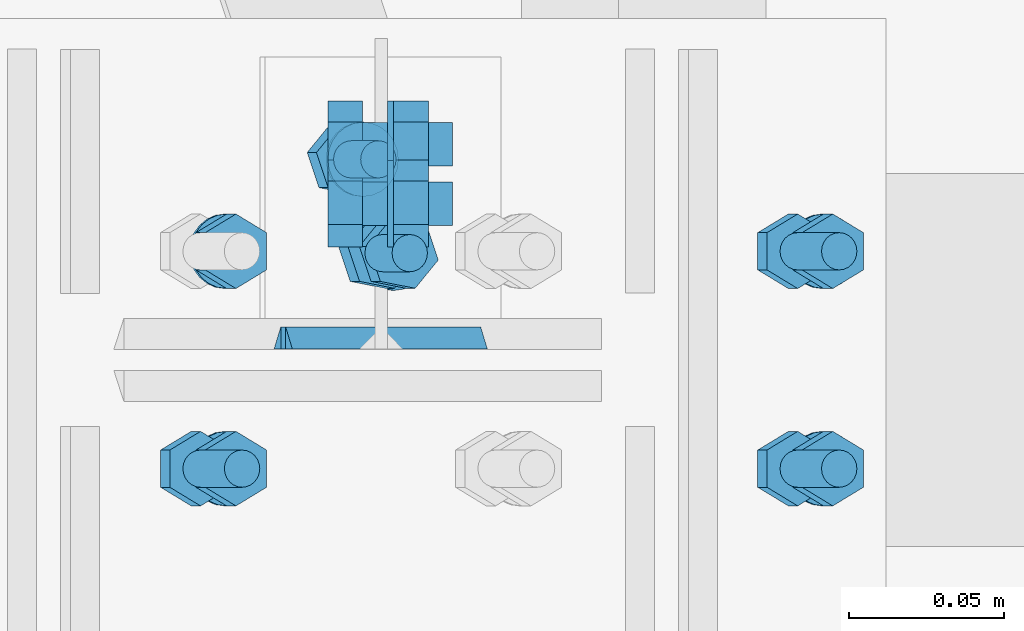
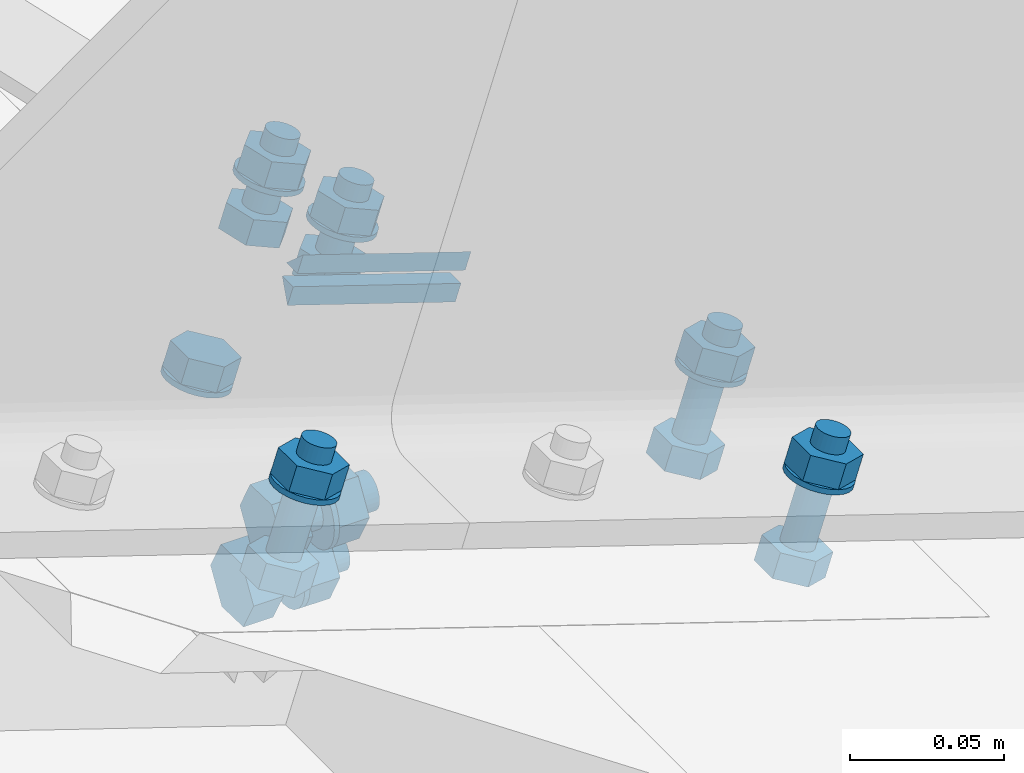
# One storey, part 48 of 53: 30 mechanical fasteners, 2 fasteners.
"""IFC4 building model written with IfcOpenShell, lengths in metres."""

from ifc_helpers import new_model, si_unit, frame, origin_with_axes, place, context, project, spatial, polyline, outline, extrude, type_object, element, save


model = new_model("IFC4")

# Units and contexts
model_context = context("Model", 3, precision=1e-05, world=origin_with_axes())
ifc_project = project(units=[si_unit("LENGTHUNIT", "METRE"), si_unit("AREAUNIT", "SQUARE_METRE"), si_unit("VOLUMEUNIT", "CUBIC_METRE"), si_unit("MASSUNIT", "GRAM", prefix="KILO"), si_unit("TIMEUNIT", "SECOND"), si_unit("PLANEANGLEUNIT", "RADIAN"), si_unit("SOLIDANGLEUNIT", "STERADIAN"), si_unit("THERMODYNAMICTEMPERATUREUNIT", "DEGREE_CELSIUS")], contexts=[model_context])

# Site, building, storey
placement_1 = place(None, origin_with_axes())
site = spatial("IfcSite", under=ifc_project, at=placement_1, Name="Italia", CompositionType="ELEMENT")
building = spatial("IfcBuilding", under=site, at=placement_1, Name="Capannone", CompositionType="ELEMENT")
storey_placement = place(None, frame((0.0, 0.0, 5.550000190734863), z_axis=(0.0, 0.0, 1.0), x_axis=(1.0, 0.0, 0.0)))
storey = spatial("IfcBuildingStorey", under=building, at=storey_placement, Name="Storey 1", CompositionType="ELEMENT", Elevation=5.550000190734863)

# Mechanical fasteners
mechanical_fastener_type_1 = type_object("IfcMechanicalFastenerType", Name="Collegamenti 0102_0002 0104_0004 0106_0006 0108_0008 0110_0010 0112_0012", PredefinedType="BOLT")
placement_2 = place(placement_1, origin_with_axes())
mechanical_fastener_1_placement = place(placement_2, origin_with_axes())
element("IfcMechanicalFastener", 1, at=mechanical_fastener_1_placement, inside=storey, type_object=mechanical_fastener_type_1, Name="Collegamenti 0102_0002 0104_0004 0106_0006 0108_0008 0110_0010 0112_0012", NominalDiameter=0.0119993, context=model_context, shape_type="SweptSolid", body=[
    extrude(outline(polyline([(0.0, 0.0), (-0.0120001, 0.0), (-0.0179996, 0.0103922), (-0.0120001, 0.0207844), (0.0, 0.0207844), (0.00600052, 0.0103922), (0.0, 0.0)])), frame((13.9691, 12.029, 5.5827), z_axis=(-0.312127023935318, 0.0, -0.950040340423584), x_axis=(0.0, -1.0, 0.0)), (0.0, 0.0, 1.0), 0.00960008),
])
mechanical_fastener_type_2 = type_object("IfcMechanicalFastenerType", Name="Collegamenti 0102_0002 0104_0004 0106_0006 0108_0008 0110_0010 0112_0012", PredefinedType="BOLT")
mechanical_fastener_2_placement = place(placement_2, origin_with_axes())
element("IfcMechanicalFastener", 2, at=mechanical_fastener_2_placement, inside=storey, type_object=mechanical_fastener_type_2, Name="Collegamenti 0102_0002 0104_0004 0106_0006 0108_0008 0110_0010 0112_0012", NominalDiameter=0.024, context=model_context, shape_type="SweptSolid", body=[
    extrude(outline(polyline([(0.0, 0.0), (-0.000409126, -0.00310516), (-0.00160789, -0.00600052), (-0.00351524, -0.00848484), (-0.00600052, -0.0103931), (-0.00889397, -0.011591), (-0.0120001, -0.0120001), (-0.0151062, -0.011591), (-0.0179996, -0.0103931), (-0.0204849, -0.00848484), (-0.0223923, -0.00600052), (-0.023591, -0.00310516), (-0.0240002, 0.0), (-0.023591, 0.00310516), (-0.0223923, 0.00599957), (-0.0204849, 0.00848579), (-0.0179996, 0.0103922), (-0.0151062, 0.011591), (-0.0120001, 0.0120001), (-0.00889397, 0.011591), (-0.00600052, 0.0103922), (-0.00351524, 0.00848579), (-0.00160789, 0.00599957), (-0.000409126, 0.00310516), (0.0, 0.0)])), frame((13.9562, 12.023, 5.57682), z_axis=(-0.311790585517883, 0.0, -0.950150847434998), x_axis=(0.0, -1.0, 0.0)), (0.0, 0.0, 1.0), 0.00200039),
])
mechanical_fastener_type_3 = type_object("IfcMechanicalFastenerType", Name="Collegamenti 0102_0002 0104_0004 0106_0006 0108_0008 0110_0010 0112_0012", PredefinedType="BOLT")
mechanical_fastener_3_placement = place(placement_2, origin_with_axes())
element("IfcMechanicalFastener", 3, at=mechanical_fastener_3_placement, inside=storey, type_object=mechanical_fastener_type_3, Name="Collegamenti 0102_0002 0104_0004 0106_0006 0108_0008 0110_0010 0112_0012", NominalDiameter=0.0119994, context=model_context, shape_type="SweptSolid", body=[
    extrude(outline(polyline([(0.0, 0.0), (-0.0120001, 0.0), (-0.0180006, 0.0103931), (-0.0120001, 0.0207853), (0.0, 0.0207853), (0.00599957, 0.0103931), (0.0, 0.0)])), frame((13.9577, 11.959, 5.54811), z_axis=(-0.312141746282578, 0.0, -0.950035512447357), x_axis=(0.0, -1.0, 0.0)), (0.0, 0.0, 1.0), 0.00959963),
])
mechanical_fastener_type_4 = type_object("IfcMechanicalFastenerType", Name="Collegamenti 0102_0002 0104_0004 0106_0006 0108_0008 0110_0010 0112_0012", PredefinedType="BOLT")
mechanical_fastener_4_placement = place(placement_2, origin_with_axes())
element("IfcMechanicalFastener", 4, at=mechanical_fastener_4_placement, inside=storey, type_object=mechanical_fastener_type_4, Name="Collegamenti 0102_0002 0104_0004 0106_0006 0108_0008 0110_0010 0112_0012", NominalDiameter=0.012, context=model_context, shape_type="SweptSolid", body=[
    extrude(outline(polyline([(0.0, 0.0), (-0.000204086, -0.00155354), (-0.000802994, -0.00300121), (-0.00175667, -0.00424194), (-0.00299931, -0.00519562), (-0.00444698, -0.00579453), (-0.00599957, -0.00599957), (-0.00755215, -0.00579453), (-0.00899982, -0.00519562), (-0.0102425, -0.00424194), (-0.0111961, -0.00300121), (-0.011795, -0.00155354), (-0.0119991, 0.0), (-0.011795, 0.00155354), (-0.0111961, 0.00300026), (-0.0102425, 0.00424194), (-0.00899982, 0.00519657), (-0.00755215, 0.00579548), (-0.00599957, 0.00599957), (-0.00444698, 0.00579548), (-0.00299931, 0.00519657), (-0.00175667, 0.00424194), (-0.000802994, 0.00300026), (-0.000204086, 0.00155354), (0.0, 0.0)])), frame((13.9612, 11.959, 5.59202), z_axis=(-0.312147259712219, 0.0, -0.950033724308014), x_axis=(0.0, -1.0, 0.0)), (0.0, 0.0, 1.0), 0.0428004),
])
mechanical_fastener_type_5 = type_object("IfcMechanicalFastenerType", Name="Collegamenti 0102_0002 0104_0004 0106_0006 0108_0008 0110_0010 0112_0012", PredefinedType="BOLT")
mechanical_fastener_5_placement = place(placement_2, origin_with_axes())
element("IfcMechanicalFastener", 5, at=mechanical_fastener_5_placement, inside=storey, type_object=mechanical_fastener_type_5, Name="Collegamenti 0102_0002 0104_0004 0106_0006 0108_0008 0110_0010 0112_0012", NominalDiameter=0.0119993, context=model_context, shape_type="SweptSolid", body=[
    extrude(outline(polyline([(0.0, 0.0), (-0.0120001, 0.0), (-0.0180006, 0.0103922), (-0.0120001, 0.0207844), (0.0, 0.0207844), (0.00599957, 0.0103922), (0.0, 0.0)])), frame((13.9691, 11.959, 5.5827), z_axis=(-0.312127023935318, 0.0, -0.950040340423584), x_axis=(0.0, -1.0, 0.0)), (0.0, 0.0, 1.0), 0.00960008),
])
mechanical_fastener_type_6 = type_object("IfcMechanicalFastenerType", Name="Collegamenti 0102_0002 0104_0004 0106_0006 0108_0008 0110_0010 0112_0012", PredefinedType="BOLT")
mechanical_fastener_6_placement = place(placement_2, origin_with_axes())
element("IfcMechanicalFastener", 6, at=mechanical_fastener_6_placement, inside=storey, type_object=mechanical_fastener_type_6, Name="Collegamenti 0102_0002 0104_0004 0106_0006 0108_0008 0110_0010 0112_0012", NominalDiameter=0.024, context=model_context, shape_type="SweptSolid", body=[
    extrude(outline(polyline([(0.0, 0.0), (-0.000409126, -0.00310516), (-0.00160789, -0.00600052), (-0.00351524, -0.00848484), (-0.00600052, -0.0103931), (-0.00889397, -0.011591), (-0.0120001, -0.0120001), (-0.0151062, -0.011591), (-0.0179996, -0.0103931), (-0.0204849, -0.00848484), (-0.0223923, -0.00600052), (-0.023591, -0.00310516), (-0.0240002, 0.0), (-0.023591, 0.00310516), (-0.0223923, 0.00599957), (-0.0204849, 0.00848579), (-0.0179996, 0.0103922), (-0.0151062, 0.011591), (-0.0120001, 0.0120001), (-0.00889397, 0.011591), (-0.00600052, 0.0103922), (-0.00351524, 0.00848579), (-0.00160789, 0.00599957), (-0.000409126, 0.00310516), (0.0, 0.0)])), frame((13.9562, 11.953, 5.57682), z_axis=(-0.311790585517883, 0.0, -0.950150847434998), x_axis=(0.0, -1.0, 0.0)), (0.0, 0.0, 1.0), 0.00200039),
])
mechanical_fastener_type_7 = type_object("IfcMechanicalFastenerType", Name="Collegamenti 0102_0002 0104_0004 0106_0006 0108_0008 0110_0010 0112_0012", PredefinedType="BOLT")
mechanical_fastener_7_placement = place(placement_2, origin_with_axes())
element("IfcMechanicalFastener", 7, at=mechanical_fastener_7_placement, inside=storey, type_object=mechanical_fastener_type_7, Name="Collegamenti 0102_0002 0104_0004 0106_0006 0108_0008 0110_0010 0112_0012", NominalDiameter=0.0120001, context=model_context, shape_type="SweptSolid", body=[
    extrude(outline(polyline([(0.0, 0.0), (-0.0120001, 0.0), (-0.0179996, 0.0103922), (-0.0120001, 0.0207853), (0.0, 0.0207853), (0.00600052, 0.0103922), (0.0, 0.0)])), frame((14.15, 12.029, 5.48493), z_axis=(-0.312216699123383, 0.0, -0.950010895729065), x_axis=(0.0, -1.0, 0.0)), (0.0, 0.0, 1.0), 0.00960038),
])
mechanical_fastener_type_8 = type_object("IfcMechanicalFastenerType", Name="Collegamenti 0102_0002 0104_0004 0106_0006 0108_0008 0110_0010 0112_0012", PredefinedType="BOLT")
mechanical_fastener_8_placement = place(placement_2, origin_with_axes())
element("IfcMechanicalFastener", 8, at=mechanical_fastener_8_placement, inside=storey, type_object=mechanical_fastener_type_8, Name="Collegamenti 0102_0002 0104_0004 0106_0006 0108_0008 0110_0010 0112_0012", NominalDiameter=0.012, context=model_context, shape_type="SweptSolid", body=[
    extrude(outline(polyline([(0.0, 0.0), (-0.000204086, -0.00155163), (-0.000802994, -0.00299931), (-0.00175667, -0.00424099), (-0.00299931, -0.00519562), (-0.00444698, -0.00579453), (-0.00599957, -0.00599957), (-0.00755215, -0.00579453), (-0.00899982, -0.00519562), (-0.0102425, -0.00424099), (-0.0111961, -0.00299931), (-0.011795, -0.00155163), (-0.0119991, 0.0), (-0.011795, 0.00155354), (-0.0111961, 0.00300121), (-0.0102425, 0.0042429), (-0.00899982, 0.00519657), (-0.00755215, 0.00579548), (-0.00599957, 0.00600052), (-0.00444698, 0.00579548), (-0.00299931, 0.00519657), (-0.00175667, 0.0042429), (-0.000802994, 0.00300121), (-0.000204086, 0.00155354), (0.0, 0.0)])), frame((14.1535, 12.029, 5.52884), z_axis=(-0.312150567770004, 0.0, -0.950032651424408), x_axis=(0.0, -1.0, 0.0)), (0.0, 0.0, 1.0), 0.0427999),
])
mechanical_fastener_type_9 = type_object("IfcMechanicalFastenerType", Name="Collegamenti 0102_0002 0104_0004 0106_0006 0108_0008 0110_0010 0112_0012", PredefinedType="BOLT")
mechanical_fastener_9_placement = place(placement_2, origin_with_axes())
element("IfcMechanicalFastener", 9, at=mechanical_fastener_9_placement, inside=storey, type_object=mechanical_fastener_type_9, Name="Collegamenti 0102_0002 0104_0004 0106_0006 0108_0008 0110_0010 0112_0012", NominalDiameter=0.0119993, context=model_context, shape_type="SweptSolid", body=[
    extrude(outline(polyline([(0.0, 0.0), (-0.0120001, 0.0), (-0.0179996, 0.0103931), (-0.0120001, 0.0207853), (0.0, 0.0207853), (0.00600052, 0.0103931), (0.0, 0.0)])), frame((14.1613, 12.029, 5.51952), z_axis=(-0.312127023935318, 0.0, -0.950040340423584), x_axis=(0.0, -1.0, 0.0)), (0.0, 0.0, 1.0), 0.00960008),
])
mechanical_fastener_type_10 = type_object("IfcMechanicalFastenerType", Name="Collegamenti 0102_0002 0104_0004 0106_0006 0108_0008 0110_0010 0112_0012", PredefinedType="BOLT")
mechanical_fastener_10_placement = place(placement_2, origin_with_axes())
element("IfcMechanicalFastener", 10, at=mechanical_fastener_10_placement, inside=storey, type_object=mechanical_fastener_type_10, Name="Collegamenti 0102_0002 0104_0004 0106_0006 0108_0008 0110_0010 0112_0012", NominalDiameter=0.024, context=model_context, shape_type="SweptSolid", body=[
    extrude(outline(polyline([(0.0, 0.0), (-0.000409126, -0.00310612), (-0.00160789, -0.00600052), (-0.00351524, -0.00848484), (-0.00600052, -0.0103922), (-0.00889397, -0.011591), (-0.0120001, -0.0120001), (-0.0151062, -0.011591), (-0.0179996, -0.0103922), (-0.0204849, -0.00848484), (-0.0223923, -0.00600052), (-0.023591, -0.00310612), (-0.0240002, 0.0), (-0.023591, 0.00310612), (-0.0223923, 0.00599957), (-0.0204849, 0.00848579), (-0.0179996, 0.0103922), (-0.0151062, 0.0115919), (-0.0120001, 0.0120001), (-0.00889397, 0.0115919), (-0.00600052, 0.0103922), (-0.00351524, 0.00848579), (-0.00160789, 0.00599957), (-0.000409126, 0.00310612), (0.0, 0.0)])), frame((14.1485, 12.023, 5.51364), z_axis=(-0.311790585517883, 0.0, -0.950150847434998), x_axis=(0.0, -1.0, 0.0)), (0.0, 0.0, 1.0), 0.00200039),
])
mechanical_fastener_type_11 = type_object("IfcMechanicalFastenerType", Name="Collegamenti 0102_0002 0104_0004 0106_0006 0108_0008 0110_0010 0112_0012", PredefinedType="BOLT")
mechanical_fastener_11_placement = place(placement_2, origin_with_axes())
element("IfcMechanicalFastener", 11, at=mechanical_fastener_11_placement, inside=storey, type_object=mechanical_fastener_type_11, Name="Collegamenti 0102_0002 0104_0004 0106_0006 0108_0008 0110_0010 0112_0012", NominalDiameter=0.0120001, context=model_context, shape_type="SweptSolid", body=[
    extrude(outline(polyline([(0.0, 0.0), (-0.0120001, 0.0), (-0.0180006, 0.0103922), (-0.0120001, 0.0207853), (0.0, 0.0207853), (0.00599957, 0.0103922), (0.0, 0.0)])), frame((14.15, 11.959, 5.48493), z_axis=(-0.312216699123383, 0.0, -0.950010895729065), x_axis=(0.0, -1.0, 0.0)), (0.0, 0.0, 1.0), 0.00960038),
])
mechanical_fastener_type_12 = type_object("IfcMechanicalFastenerType", Name="Collegamenti 0102_0002 0104_0004 0106_0006 0108_0008 0110_0010 0112_0012", PredefinedType="BOLT")
mechanical_fastener_12_placement = place(placement_2, origin_with_axes())
element("IfcMechanicalFastener", 12, at=mechanical_fastener_12_placement, inside=storey, type_object=mechanical_fastener_type_12, Name="Collegamenti 0102_0002 0104_0004 0106_0006 0108_0008 0110_0010 0112_0012", NominalDiameter=0.012, context=model_context, shape_type="SweptSolid", body=[
    extrude(outline(polyline([(0.0, 0.0), (-0.000204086, -0.00155163), (-0.000802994, -0.00299931), (-0.00175667, -0.00424099), (-0.00299931, -0.00519562), (-0.00444698, -0.00579453), (-0.00599957, -0.00599957), (-0.00755215, -0.00579453), (-0.00899982, -0.00519562), (-0.0102425, -0.00424099), (-0.0111961, -0.00299931), (-0.011795, -0.00155163), (-0.0119991, 0.0), (-0.011795, 0.00155354), (-0.0111961, 0.00300121), (-0.0102425, 0.0042429), (-0.00899982, 0.00519657), (-0.00755215, 0.00579548), (-0.00599957, 0.00600052), (-0.00444698, 0.00579548), (-0.00299931, 0.00519657), (-0.00175667, 0.0042429), (-0.000802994, 0.00300121), (-0.000204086, 0.00155354), (0.0, 0.0)])), frame((14.1535, 11.959, 5.52884), z_axis=(-0.312150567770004, 0.0, -0.950032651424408), x_axis=(0.0, -1.0, 0.0)), (0.0, 0.0, 1.0), 0.0427999),
])
mechanical_fastener_type_13 = type_object("IfcMechanicalFastenerType", Name="Collegamenti 0102_0002 0104_0004 0106_0006 0108_0008 0110_0010 0112_0012", PredefinedType="BOLT")
mechanical_fastener_13_placement = place(placement_2, origin_with_axes())
element("IfcMechanicalFastener", 13, at=mechanical_fastener_13_placement, inside=storey, type_object=mechanical_fastener_type_13, Name="Collegamenti 0102_0002 0104_0004 0106_0006 0108_0008 0110_0010 0112_0012", NominalDiameter=0.0119993, context=model_context, shape_type="SweptSolid", body=[
    extrude(outline(polyline([(0.0, 0.0), (-0.0120001, 0.0), (-0.0180006, 0.0103931), (-0.0120001, 0.0207853), (0.0, 0.0207853), (0.00599957, 0.0103931), (0.0, 0.0)])), frame((14.1613, 11.959, 5.51952), z_axis=(-0.312127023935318, 0.0, -0.950040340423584), x_axis=(0.0, -1.0, 0.0)), (0.0, 0.0, 1.0), 0.00960008),
])
mechanical_fastener_type_14 = type_object("IfcMechanicalFastenerType", Name="Collegamenti 0102_0002 0104_0004 0106_0006 0108_0008 0110_0010 0112_0012", PredefinedType="BOLT")
mechanical_fastener_14_placement = place(placement_2, origin_with_axes())
element("IfcMechanicalFastener", 14, at=mechanical_fastener_14_placement, inside=storey, type_object=mechanical_fastener_type_14, Name="Collegamenti 0102_0002 0104_0004 0106_0006 0108_0008 0110_0010 0112_0012", NominalDiameter=0.024, context=model_context, shape_type="SweptSolid", body=[
    extrude(outline(polyline([(0.0, 0.0), (-0.000409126, -0.00310612), (-0.00160789, -0.00600052), (-0.00351524, -0.00848484), (-0.00600052, -0.0103922), (-0.00889397, -0.011591), (-0.0120001, -0.0120001), (-0.0151062, -0.011591), (-0.0179996, -0.0103922), (-0.0204849, -0.00848484), (-0.0223923, -0.00600052), (-0.023591, -0.00310612), (-0.0240002, 0.0), (-0.023591, 0.00310612), (-0.0223923, 0.00599957), (-0.0204849, 0.00848579), (-0.0179996, 0.0103922), (-0.0151062, 0.0115919), (-0.0120001, 0.0120001), (-0.00889397, 0.0115919), (-0.00600052, 0.0103922), (-0.00351524, 0.00848579), (-0.00160789, 0.00599957), (-0.000409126, 0.00310612), (0.0, 0.0)])), frame((14.1485, 11.953, 5.51364), z_axis=(-0.311790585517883, 0.0, -0.950150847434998), x_axis=(0.0, -1.0, 0.0)), (0.0, 0.0, 1.0), 0.00200039),
])
mechanical_fastener_type_15 = type_object("IfcMechanicalFastenerType", Name="Collegamento 0110_-1058", PredefinedType="BOLT")
mechanical_fastener_15_placement = place(placement_2, origin_with_axes())
element("IfcMechanicalFastener", 15, at=mechanical_fastener_15_placement, inside=storey, type_object=mechanical_fastener_type_15, Name="Collegamento 0110_-1058", NominalDiameter=0.0119993, context=model_context, shape_type="SweptSolid", body=[
    extrude(outline(polyline([(0.0, 0.0), (0.0113239, -0.00397301), (0.0204258, 0.00384712), (0.0182047, 0.0156403), (0.00688171, 0.0196123), (-0.00222015, 0.0117922), (0.0, 0.0)])), frame((14.0139, 12.0435, 5.60596), z_axis=(-0.312127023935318, 0.0, -0.950040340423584), x_axis=(0.0, -1.0, 0.0)), (0.0, 0.0, 1.0), 0.00960008),
])
mechanical_fastener_type_16 = type_object("IfcMechanicalFastenerType", Name="Collegamento 0110_-1058", PredefinedType="BOLT")
mechanical_fastener_16_placement = place(placement_2, origin_with_axes())
element("IfcMechanicalFastener", 16, at=mechanical_fastener_16_placement, inside=storey, type_object=mechanical_fastener_type_16, Name="Collegamento 0110_-1058", NominalDiameter=0.012, context=model_context, shape_type="SweptSolid", body=[
    extrude(outline(polyline([(0.0, 0.0), (-0.000204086, -0.00155354), (-0.000802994, -0.00300121), (-0.00175667, -0.00424194), (-0.00299931, -0.00519562), (-0.00444698, -0.00579548), (-0.00599957, -0.00599957), (-0.00755215, -0.00579548), (-0.00899982, -0.00519562), (-0.0102425, -0.00424194), (-0.0111961, -0.00300121), (-0.011795, -0.00155354), (-0.0119991, 0.0), (-0.011795, 0.00155354), (-0.0111961, 0.00300026), (-0.0102425, 0.00424194), (-0.00899982, 0.00519562), (-0.00755215, 0.00579453), (-0.00599957, 0.00599957), (-0.00444698, 0.00579453), (-0.00299931, 0.00519562), (-0.00175667, 0.00424194), (-0.000802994, 0.00300026), (-0.000204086, 0.00155354), (0.0, 0.0)])), frame((14.0152, 12.0284, 5.635), z_axis=(-0.312158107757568, 0.0, -0.950030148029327), x_axis=(0.0, -1.0, 0.0)), (0.0, 0.0, 1.0), 0.028),
])
mechanical_fastener_type_17 = type_object("IfcMechanicalFastenerType", Name="Collegamento 0110_-1058", PredefinedType="BOLT")
mechanical_fastener_17_placement = place(placement_2, origin_with_axes())
element("IfcMechanicalFastener", 17, at=mechanical_fastener_17_placement, inside=storey, type_object=mechanical_fastener_type_17, Name="Collegamento 0110_-1058", NominalDiameter=0.0119993, context=model_context, shape_type="SweptSolid", body=[
    extrude(outline(polyline([(0.0, 0.0), (0.0113239, -0.00397396), (0.0204258, 0.00384617), (0.0182047, 0.0156393), (0.00688171, 0.0196114), (-0.00222015, 0.0117922), (0.0, 0.0)])), frame((14.0206, 12.0435, 5.62648), z_axis=(-0.312127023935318, 0.0, -0.950040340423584), x_axis=(0.0, -1.0, 0.0)), (0.0, 0.0, 1.0), 0.00960008),
])
mechanical_fastener_type_18 = type_object("IfcMechanicalFastenerType", Name="Collegamento 0110_-1058", PredefinedType="BOLT")
mechanical_fastener_18_placement = place(placement_2, origin_with_axes())
element("IfcMechanicalFastener", 18, at=mechanical_fastener_18_placement, inside=storey, type_object=mechanical_fastener_type_18, Name="Collegamento 0110_-1058", NominalDiameter=0.024, context=model_context, shape_type="SweptSolid", body=[
    extrude(outline(polyline([(0.0, 0.0), (-0.000409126, -0.00310516), (-0.00160789, -0.00600052), (-0.00351524, -0.00848579), (-0.00600052, -0.0103912), (-0.00889397, -0.0115919), (-0.0120001, -0.0119991), (-0.0151062, -0.0115919), (-0.0179996, -0.0103912), (-0.0204849, -0.00848579), (-0.0223923, -0.00600052), (-0.023591, -0.00310516), (-0.0240002, 0.0), (-0.023591, 0.00310612), (-0.0223923, 0.00600052), (-0.0204849, 0.00848579), (-0.0179996, 0.0103922), (-0.0151062, 0.0115919), (-0.0120001, 0.0120001), (-0.00889397, 0.0115919), (-0.00600052, 0.0103922), (-0.00351524, 0.00848579), (-0.00160789, 0.00600052), (-0.000409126, 0.00310612), (0.0, 0.0)])), frame((14.0102, 12.0224, 5.6198), z_axis=(-0.311931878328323, 0.0, -0.950104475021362), x_axis=(0.0, -1.0, 0.0)), (0.0, 0.0, 1.0), 0.00199948),
])
mechanical_fastener_type_19 = type_object("IfcMechanicalFastenerType", Name="Collegamento 0110_-1058", PredefinedType="BOLT")
mechanical_fastener_19_placement = place(placement_2, origin_with_axes())
element("IfcMechanicalFastener", 19, at=mechanical_fastener_19_placement, inside=storey, type_object=mechanical_fastener_type_19, Name="Collegamento 0110_-1058", NominalDiameter=0.0119995, context=model_context, shape_type="SweptSolid", body=[
    extrude(outline(polyline([(0.0, 0.0), (0.0113239, -0.00397301), (0.0204258, 0.00384712), (0.0182047, 0.0156403), (0.00688171, 0.0196123), (-0.00222111, 0.0117922), (0.0, 0.0)])), frame((14.0038, 12.0737, 5.60926), z_axis=(-0.312141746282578, 0.0, -0.950035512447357), x_axis=(0.0, -1.0, 0.0)), (0.0, 0.0, 1.0), 0.00959963),
])
mechanical_fastener_type_20 = type_object("IfcMechanicalFastenerType", Name="Collegamento 0110_-1058", PredefinedType="BOLT")
mechanical_fastener_20_placement = place(placement_2, origin_with_axes())
element("IfcMechanicalFastener", 20, at=mechanical_fastener_20_placement, inside=storey, type_object=mechanical_fastener_type_20, Name="Collegamento 0110_-1058", NominalDiameter=0.012, context=model_context, shape_type="SweptSolid", body=[
    extrude(outline(polyline([(0.0, 0.0), (-0.000204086, -0.00155354), (-0.000802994, -0.00300121), (-0.00175667, -0.0042429), (-0.00299931, -0.00519753), (-0.00444698, -0.00579643), (-0.00599957, -0.00600052), (-0.00755215, -0.00579643), (-0.00899982, -0.00519753), (-0.0102425, -0.0042429), (-0.0111961, -0.00300121), (-0.011795, -0.00155354), (-0.0119991, 0.0), (-0.011795, 0.00155163), (-0.0111961, 0.00299931), (-0.0102425, 0.00424099), (-0.00899982, 0.00519562), (-0.00755215, 0.00579453), (-0.00599957, 0.00599957), (-0.00444698, 0.00579453), (-0.00299931, 0.00519562), (-0.00175667, 0.00424099), (-0.000802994, 0.00299931), (-0.000204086, 0.00155163), (0.0, 0.0)])), frame((14.0051, 12.0586, 5.6383), z_axis=(-0.312158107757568, 0.0, -0.950030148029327), x_axis=(0.0, -1.0, 0.0)), (0.0, 0.0, 1.0), 0.028),
])
mechanical_fastener_type_21 = type_object("IfcMechanicalFastenerType", Name="Collegamento 0110_-1058", PredefinedType="BOLT")
mechanical_fastener_21_placement = place(placement_2, origin_with_axes())
element("IfcMechanicalFastener", 21, at=mechanical_fastener_21_placement, inside=storey, type_object=mechanical_fastener_type_21, Name="Collegamento 0110_-1058", NominalDiameter=0.0119995, context=model_context, shape_type="SweptSolid", body=[
    extrude(outline(polyline([(0.0, 0.0), (0.0113239, -0.00397301), (0.0204258, 0.00384712), (0.0182047, 0.0156403), (0.00688171, 0.0196114), (-0.00222111, 0.0117912), (0.0, 0.0)])), frame((14.0106, 12.0737, 5.62978), z_axis=(-0.312141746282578, 0.0, -0.950035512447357), x_axis=(0.0, -1.0, 0.0)), (0.0, 0.0, 1.0), 0.00959963),
])
mechanical_fastener_type_22 = type_object("IfcMechanicalFastenerType", Name="Collegamento 0110_-1058", PredefinedType="BOLT")
mechanical_fastener_22_placement = place(placement_2, origin_with_axes())
element("IfcMechanicalFastener", 22, at=mechanical_fastener_22_placement, inside=storey, type_object=mechanical_fastener_type_22, Name="Collegamento 0110_-1058", NominalDiameter=0.024, context=model_context, shape_type="SweptSolid", body=[
    extrude(outline(polyline([(0.0, 0.0), (-0.000409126, -0.00310516), (-0.00160789, -0.00600052), (-0.00351524, -0.00848579), (-0.00600052, -0.0103922), (-0.00889397, -0.0115919), (-0.0120001, -0.0120001), (-0.0151062, -0.0115919), (-0.0179996, -0.0103922), (-0.0204849, -0.00848579), (-0.0223923, -0.00600052), (-0.023591, -0.00310516), (-0.0240002, 0.0), (-0.023591, 0.00310516), (-0.0223923, 0.00599957), (-0.0204849, 0.00848579), (-0.0179996, 0.0103922), (-0.0151062, 0.011591), (-0.0120001, 0.0119991), (-0.00889397, 0.011591), (-0.00600052, 0.0103922), (-0.00351524, 0.00848579), (-0.00160789, 0.00599957), (-0.000409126, 0.00310516), (0.0, 0.0)])), frame((14.0002, 12.0526, 5.6231), z_axis=(-0.311861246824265, 0.0, -0.95012766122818), x_axis=(0.0, -1.0, 0.0)), (0.0, 0.0, 1.0), 0.00199994),
])

# Fasteners
fastener_type_1 = type_object("IfcFastenerType", Name="Collegamento 0110_-1058", PredefinedType="WELD")
fastener_1_placement = place(placement_2, origin_with_axes())
element("IfcFastener", 23, at=fastener_1_placement, inside=storey, type_object=fastener_type_1, Name="Collegamento 0110_-1058", context=model_context, shape_type="SweptSolid", body=[
    extrude(outline(polyline([(0.0, 0.0), (0.00717258, -0.00695801), (0.0, -0.00695801), (0.0, 0.0)])), frame((13.9774, 12.0035, 5.63576), z_axis=(0.95003354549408, 0.0, -0.312147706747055), x_axis=(0.0, 1.0, 0.0)), (0.0, 0.0, 1.0), 0.0661024),
])
fastener_type_2 = type_object("IfcFastenerType", Name="Collegamento 0110_-1058", PredefinedType="WELD")
fastener_2_placement = place(placement_2, origin_with_axes())
element("IfcFastener", 24, at=fastener_2_placement, inside=storey, type_object=fastener_type_2, Name="Collegamento 0110_-1058", context=model_context, shape_type="SweptSolid", body=[
    extrude(outline(polyline([(0.0, 0.0), (-0.00717258, 0.00695896), (0.0, 0.00695896), (0.0, 0.0)])), frame((14.0343, 12.0035, 5.59725), z_axis=(-0.95003080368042, 0.0, 0.31215626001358), x_axis=(0.0, -1.0, 0.0)), (0.0, 0.0, 1.0), 0.0661005),
])

# Mechanical fasteners
mechanical_fastener_type_23 = type_object("IfcMechanicalFastenerType", Name="Collegamento 0110_0012", PredefinedType="BOLT")
mechanical_fastener_23_placement = place(placement_2, origin_with_axes())
element("IfcMechanicalFastener", 25, at=mechanical_fastener_23_placement, inside=storey, type_object=mechanical_fastener_type_23, Name="Collegamento 0110_0012", NominalDiameter=0.0139997, context=model_context, shape_type="SweptSolid", body=[
    extrude(outline(polyline([(0.0, 0.0), (0.0066576, 0.0123158), (-0.00067997, 0.0242391), (-0.0146742, 0.0238466), (-0.0213318, 0.0115309), (-0.0139942, -0.000392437), (0.0, 0.0)])), frame((14.0, 12.043, 5.48433), z_axis=(-1.0, 0.0, 0.0), x_axis=(0.0, -1.0, 0.0)), (0.0, 0.0, 1.0), 0.0112),
])
mechanical_fastener_type_24 = type_object("IfcMechanicalFastenerType", Name="Collegamento 0110_0012", PredefinedType="BOLT")
mechanical_fastener_24_placement = place(placement_2, origin_with_axes())
element("IfcMechanicalFastener", 26, at=mechanical_fastener_24_placement, inside=storey, type_object=mechanical_fastener_type_24, Name="Collegamento 0110_0012", NominalDiameter=0.014, context=model_context, shape_type="SweptSolid", body=[
    extrude(outline(polyline([(0.0, 0.0), (-0.000238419, -0.0018115), (-0.000937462, -0.00349998), (-0.0020504, -0.00494957), (-0.00349998, -0.00606203), (-0.00518799, -0.00676155), (-0.00699997, -0.00699997), (-0.00881195, -0.00676155), (-0.0105, -0.00606203), (-0.0119495, -0.00494957), (-0.0130625, -0.00349998), (-0.0137615, -0.0018115), (-0.0139999, 0.0), (-0.0137615, 0.0018115), (-0.0130625, 0.00349998), (-0.0119495, 0.00494957), (-0.0105, 0.00606203), (-0.00881195, 0.00676155), (-0.00699997, 0.00699997), (-0.00518799, 0.00676155), (-0.00349998, 0.00606203), (-0.0020504, 0.00494957), (-0.000937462, 0.00349998), (-0.000238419, 0.0018115), (0.0, 0.0)])), frame((14.029, 12.0433, 5.49626), z_axis=(-1.0, 0.0, 0.0), x_axis=(0.0, -1.0, 0.0)), (0.0, 0.0, 1.0), 0.0289993),
])
mechanical_fastener_type_25 = type_object("IfcMechanicalFastenerType", Name="Collegamento 0110_0012", PredefinedType="BOLT")
mechanical_fastener_25_placement = place(placement_2, origin_with_axes())
element("IfcMechanicalFastener", 27, at=mechanical_fastener_25_placement, inside=storey, type_object=mechanical_fastener_type_25, Name="Collegamento 0110_0012", NominalDiameter=0.0139997, context=model_context, shape_type="SweptSolid", body=[
    extrude(outline(polyline([(0.0, 0.0), (0.0066576, 0.0123158), (-0.00067997, 0.0242391), (-0.0146742, 0.0238466), (-0.0213318, 0.0115309), (-0.0139942, -0.000392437), (0.0, 0.0)])), frame((14.0212, 12.043, 5.48433), z_axis=(-1.0, 0.0, 0.0), x_axis=(0.0, -1.0, 0.0)), (0.0, 0.0, 1.0), 0.0112),
])
mechanical_fastener_type_26 = type_object("IfcMechanicalFastenerType", Name="Collegamento 0110_0012", PredefinedType="BOLT")
mechanical_fastener_26_placement = place(placement_2, origin_with_axes())
element("IfcMechanicalFastener", 28, at=mechanical_fastener_26_placement, inside=storey, type_object=mechanical_fastener_type_26, Name="Collegamento 0110_0012", NominalDiameter=0.028, context=model_context, shape_type="SweptSolid", body=[
    extrude(outline(polyline([(0.0, 0.0), (-0.000476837, -0.00362349), (-0.00187588, -0.00699997), (-0.0041008, -0.00989962), (-0.00699997, -0.0121245), (-0.0103769, -0.0135231), (-0.0139999, -0.0139999), (-0.0176229, -0.0135231), (-0.0209999, -0.0121245), (-0.0238991, -0.00989962), (-0.026124, -0.00699997), (-0.027523, -0.00362349), (-0.0279999, 0.0), (-0.027523, 0.00362349), (-0.026124, 0.00699997), (-0.0238991, 0.00989962), (-0.0209999, 0.0121245), (-0.0176229, 0.0135231), (-0.0139999, 0.0139999), (-0.0103769, 0.0135231), (-0.00699997, 0.0121245), (-0.0041008, 0.00989962), (-0.00187588, 0.00699997), (-0.000476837, 0.00362349), (0.0, 0.0)])), frame((14.01, 12.0363, 5.49626), z_axis=(-1.0, 0.0, 0.0), x_axis=(0.0, -1.0, 0.0)), (0.0, 0.0, 1.0), 0.00199986),
])
mechanical_fastener_type_27 = type_object("IfcMechanicalFastenerType", Name="Collegamento 0110_0012", PredefinedType="BOLT")
mechanical_fastener_27_placement = place(placement_2, origin_with_axes())
element("IfcMechanicalFastener", 29, at=mechanical_fastener_27_placement, inside=storey, type_object=mechanical_fastener_type_27, Name="Collegamento 0110_0012", NominalDiameter=0.0139997, context=model_context, shape_type="SweptSolid", body=[
    extrude(outline(polyline([(0.0, 0.0), (0.0066576, 0.0123158), (-0.00067997, 0.0242391), (-0.0146742, 0.0238466), (-0.0213318, 0.0115309), (-0.0139942, -0.000392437), (0.0, 0.0)])), frame((14.0, 12.062, 5.44914), z_axis=(-1.0, 0.0, 0.0), x_axis=(0.0, -1.0, 0.0)), (0.0, 0.0, 1.0), 0.0112),
])
mechanical_fastener_type_28 = type_object("IfcMechanicalFastenerType", Name="Collegamento 0110_0012", PredefinedType="BOLT")
mechanical_fastener_28_placement = place(placement_2, origin_with_axes())
element("IfcMechanicalFastener", 30, at=mechanical_fastener_28_placement, inside=storey, type_object=mechanical_fastener_type_28, Name="Collegamento 0110_0012", NominalDiameter=0.014, context=model_context, shape_type="SweptSolid", body=[
    extrude(outline(polyline([(0.0, 0.0), (-0.000238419, -0.0018115), (-0.000937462, -0.00349998), (-0.0020504, -0.00494957), (-0.00349998, -0.00606203), (-0.00518799, -0.00676155), (-0.00699997, -0.00699997), (-0.00881195, -0.00676155), (-0.0105, -0.00606203), (-0.0119495, -0.00494957), (-0.0130625, -0.00349998), (-0.0137615, -0.0018115), (-0.0139999, 0.0), (-0.0137615, 0.0018115), (-0.0130625, 0.00349998), (-0.0119495, 0.00494957), (-0.0105, 0.00606203), (-0.00881195, 0.00676155), (-0.00699997, 0.00699997), (-0.00518799, 0.00676155), (-0.00349998, 0.00606203), (-0.0020504, 0.00494957), (-0.000937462, 0.00349998), (-0.000238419, 0.0018115), (0.0, 0.0)])), frame((14.029, 12.0624, 5.46107), z_axis=(-1.0, 0.0, 0.0), x_axis=(0.0, -1.0, 0.0)), (0.0, 0.0, 1.0), 0.0289993),
])
mechanical_fastener_type_29 = type_object("IfcMechanicalFastenerType", Name="Collegamento 0110_0012", PredefinedType="BOLT")
mechanical_fastener_29_placement = place(placement_2, origin_with_axes())
element("IfcMechanicalFastener", 31, at=mechanical_fastener_29_placement, inside=storey, type_object=mechanical_fastener_type_29, Name="Collegamento 0110_0012", NominalDiameter=0.0139997, context=model_context, shape_type="SweptSolid", body=[
    extrude(outline(polyline([(0.0, 0.0), (0.0066576, 0.0123158), (-0.00067997, 0.0242391), (-0.0146742, 0.0238466), (-0.0213318, 0.0115309), (-0.0139942, -0.000392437), (0.0, 0.0)])), frame((14.0212, 12.062, 5.44914), z_axis=(-1.0, 0.0, 0.0), x_axis=(0.0, -1.0, 0.0)), (0.0, 0.0, 1.0), 0.0112),
])
mechanical_fastener_type_30 = type_object("IfcMechanicalFastenerType", Name="Collegamento 0110_0012", PredefinedType="BOLT")
mechanical_fastener_30_placement = place(placement_2, origin_with_axes())
element("IfcMechanicalFastener", 32, at=mechanical_fastener_30_placement, inside=storey, type_object=mechanical_fastener_type_30, Name="Collegamento 0110_0012", NominalDiameter=0.028, context=model_context, shape_type="SweptSolid", body=[
    extrude(outline(polyline([(0.0, 0.0), (-0.000476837, -0.00362349), (-0.00187588, -0.00699997), (-0.0041008, -0.00989962), (-0.00699997, -0.0121245), (-0.0103769, -0.0135231), (-0.0139999, -0.0139999), (-0.0176229, -0.0135231), (-0.0209999, -0.0121245), (-0.0238991, -0.00989962), (-0.026124, -0.00699997), (-0.027523, -0.00362349), (-0.0279999, 0.0), (-0.027523, 0.00362349), (-0.026124, 0.00699997), (-0.0238991, 0.00989962), (-0.0209999, 0.0121245), (-0.0176229, 0.0135231), (-0.0139999, 0.0139999), (-0.0103769, 0.0135231), (-0.00699997, 0.0121245), (-0.0041008, 0.00989962), (-0.00187588, 0.00699997), (-0.000476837, 0.00362349), (0.0, 0.0)])), frame((14.01, 12.0554, 5.46107), z_axis=(-1.0, 0.0, 0.0), x_axis=(0.0, -1.0, 0.0)), (0.0, 0.0, 1.0), 0.00199986),
])

save(model, "model.ifc")
